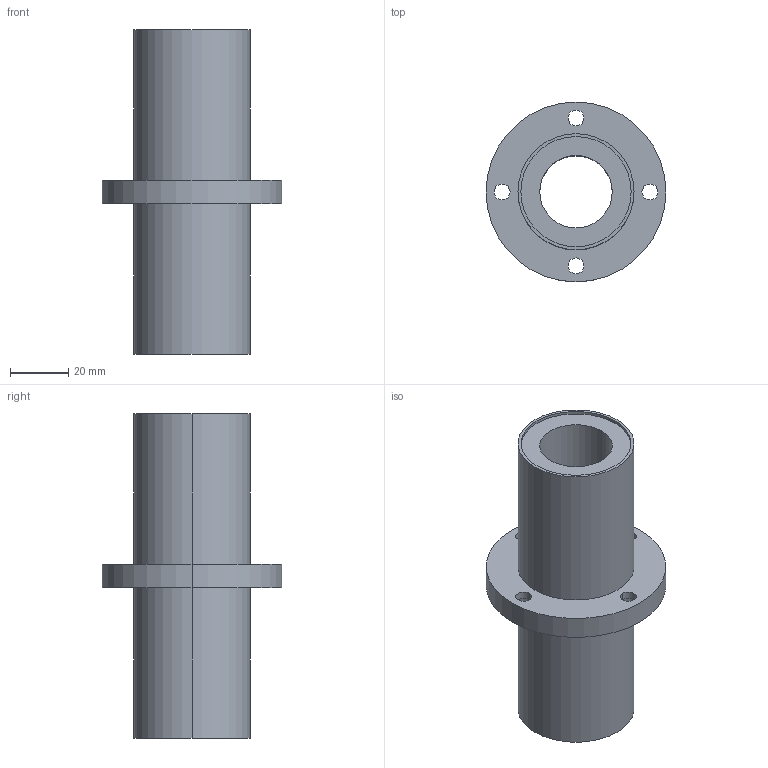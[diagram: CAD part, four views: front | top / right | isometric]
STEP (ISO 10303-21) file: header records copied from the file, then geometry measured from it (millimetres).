
FILE_DESCRIPTION((''),'2;1');
FILE_NAME('C:\Documents and Settings\ｿﾀﾀ蠑ｷ1\ｹﾙﾅﾁ ﾈｭｸ饅\ｺﾎﾇｰﾆﾄﾀﾏ\ﾁｦﾇｰ\LMFM__UU\LMFM25UU.stp','2005-06-15T13:24:52',('ｿﾀﾀ蠑ｷ1'),(''),'Autodesk Inventor 9','Autodesk Inventor 9','');
FILE_SCHEMA(('AUTOMOTIVE_DESIGN { 1 0 10303 214 1 1 1 1 }'));
Length unit declared in the file: millimetre
Products named in the file (1): LMFM__
Bounding box: 62 x 62 x 112 mm (x, y, z)
Volume: 96800.3 mm3; surface area: 29196.1 mm2
Topology: 1 solids, 1 shells, 38 faces, 84 edges, 56 vertices
Faces by surface type: cylinder 28, plane 10
Entity records: 1127 total; most frequent: DIRECTION 218, CARTESIAN_POINT 179, ORIENTED_EDGE 168, AXIS2_PLACEMENT_3D 95, EDGE_CURVE 84, VERTEX_POINT 56, CIRCLE 56, EDGE_LOOP 56
